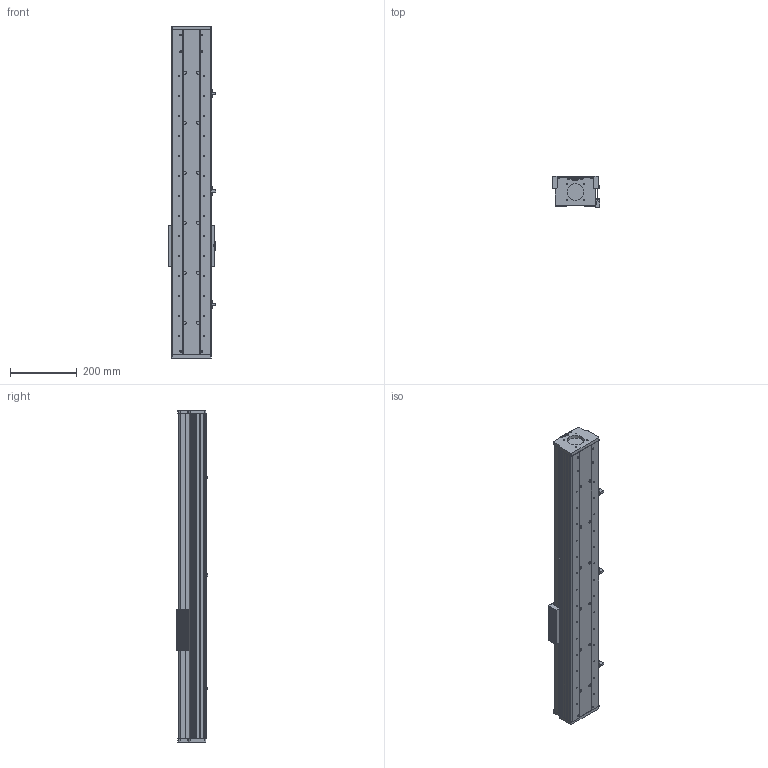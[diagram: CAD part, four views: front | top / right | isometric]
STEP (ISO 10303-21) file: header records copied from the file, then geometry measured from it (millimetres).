
FILE_DESCRIPTION (( 'STEP AP214' ), '1' );
FILE_NAME ('CF120B-C-700-FW.STEP', '2020-07-15T01:59:34', ( '微软用户' ), ( '微软中国' ), 'SwSTEP 2.0', 'SolidWorks 2016', '' );
FILE_SCHEMA (( 'AUTOMOTIVE_DESIGN' ));
Length unit declared in the file: millimetre
Products named in the file (12): 嫖萇羲壽; 75-86-95癹弇羲壽覜茼え; 120B珨极嘐隅釱; CF120-2耜啣; CF120-2盓厥釱; CF120B裔啣-700; CF120-2-2賑雄啣; CF120-2-1賑雄輸; EGR15絳寢-700; EGH-15-CABZnew; CF120B臏倰第-700; CF120B-C-700-FW
Assembly tree (17 placements, depth 2):
  CF120B-C-700-FW
    CF120B臏倰第-700
    EGH-15-CABZnew  x4
    EGR15絳寢-700  x2
    CF120-2-1賑雄輸
    CF120-2-2賑雄啣
    CF120B裔啣-700
    CF120-2盓厥釱
    CF120-2耜啣
    120B珨极嘐隅釱
    75-86-95癹弇羲壽覜茼え
    嫖萇羲壽  x3
Bounding box: 143.6 x 94.1 x 995 mm (x, y, z)
Volume: 3945179.9 mm3; surface area: 1448907.2 mm2
Topology: 13 solids, 65 shells, 7569 faces, 28379 edges, 19518 vertices
Faces by surface type: plane 3673, bspline 2474, cylinder 1066, cone 132, torus 128, sphere 96
Entity records: 145731 total; most frequent: CARTESIAN_POINT 51488, ORIENTED_EDGE 16654, DIRECTION 12846, EDGE_CURVE 9451, VERTEX_POINT 6460, VECTOR 5502, LINE 5502, AXIS2_PLACEMENT_3D 3672
